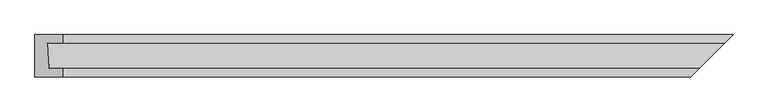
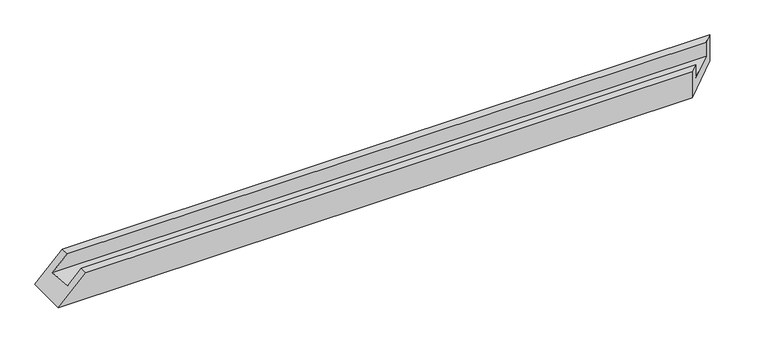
"""IFC4 building model written with IfcOpenShell, lengths in millimetres: proxy geometry, Weiku - Montante - Caixilho duplo 02.2.01.002 de canto : Weiku - Montante - Caixilho duplo 02.2.01.002 de canto."""

from ifc_helpers import new_model, si_unit, origin, place, context, project, spatial, faceted_brep, source, transform, mapped, element, save


def generic_models_8fd65afc(model_context):
    return source(origin(), model_context, "Body", "Brep", [
        faceted_brep([(-572.5, 15.0, 26.0), (-546.5, 15.0, 52.0), (613.5, 15.0, 52.0), (613.5, 15.0, 26.0), (-574.7229744, 62.0, 23.7770256), (660.5, 62.0, 23.7770256), (-546.5, 62.0, 52.0), (660.5, 62.0, 52.0), (-546.5, 77.0, 52.0), (675.5, 77.0, 52.0), (-598.5, 77.0, 0.0), (675.5, 77.0, 0.0), (-598.5, 0.0, 0.0), (598.5, 0.0, 0.0), (-546.5, 0.0, 52.0), (598.5, 0.0, 52.0)], [[[0, 1, 2, 3]], [[4, 0, 3, 5]], [[6, 4, 5, 7]], [[8, 6, 7, 9]], [[10, 8, 9, 11]], [[12, 10, 11, 13]], [[14, 12, 13, 15]], [[1, 14, 15, 2]], [[3, 2, 15, 13, 11, 9, 7, 5]], [[1, 0, 4, 6, 8, 10, 12, 14]]]),
    ])


if __name__ == "__main__":
    model = new_model("IFC4")
    model_context = context("Model", 3, world=origin())
    ifc_project = project(units=[si_unit("LENGTHUNIT", "METRE", prefix="MILLI")], contexts=[model_context])
    site = spatial("IfcSite", under=ifc_project)
    building = spatial("IfcBuilding", under=site)
    placement = place(None, origin())
    generic_models_shape = generic_models_8fd65afc(model_context)
    element("IfcBuildingElementProxy", 1, Name="Weiku - Montante - Caixilho duplo 02.2.01.002 de canto : Weiku - Montante - Caixilho duplo 02.2.01.002 de canto", ObjectType="Weiku - Montante - Caixilho duplo 02.2.01.002 de canto : Weiku - Montante - Caixilho duplo 02.2.01.002 de canto", at=placement, inside=building, context=model_context, shape_type="MappedRepresentation", body=[
        mapped(generic_models_shape, transform((0.0, 0.0, 0.0), x_axis=(1.0, 0.0, 0.0), y_axis=(0.0, 1.0, 0.0), z_axis=(0.0, 0.0, 1.0))),
    ])
    save(model, "model.ifc")
